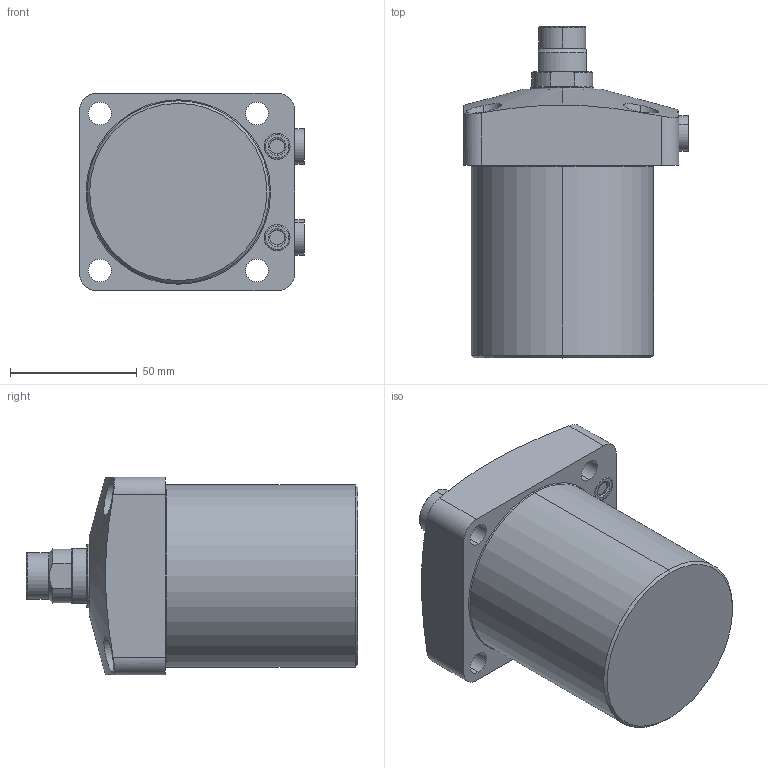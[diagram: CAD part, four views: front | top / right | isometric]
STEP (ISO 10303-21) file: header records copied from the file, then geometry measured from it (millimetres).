
FILE_DESCRIPTION(/* description */ (''),/* implementation_level */ '2;1');
FILE_NAME(/* name */ 'FSC25-M.stp',/* time_stamp */ '2025-03-10T14:18:04+08:00',/* author */ (''),/* organization */ (''),/* preprocessor_version */ 'ST-DEVELOPER v16.7',/* originating_system */ 'SIEMENS PLM Software NX 12.0',/* authorisation */ '');
FILE_SCHEMA (('AUTOMOTIVE_DESIGN { 1 0 10303 214 3 1 1 1 }'));
Length unit declared in the file: millimetre
Products named in the file (9): XLC-M16_o-ring; XLC-M16SP_pad; XLC-M16SP_pin; XLC-M16SP_contactbolt; FSC25-01; FSC25-02; FSC25-04; XLC-M16_XLC-M16SP; FSC25_stp
Assembly tree (9 placements, depth 3):
  FSC25_stp
    FSC25-04  x2
    FSC25-02
    FSC25-01
    XLC-M16_XLC-M16SP
      XLC-M16SP_contactbolt
      XLC-M16SP_pin
      XLC-M16SP_pad
      XLC-M16_o-ring
Bounding box: 88.8 x 131 x 78 mm (x, y, z)
Volume: 475965.1 mm3; surface area: 51502 mm2
Topology: 8 solids, 10 shells, 247 faces, 546 edges, 338 vertices
Faces by surface type: cylinder 96, plane 63, cone 44, torus 38, sphere 6
Entity records: 7030 total; most frequent: CARTESIAN_POINT 1601, DIRECTION 1204, ORIENTED_EDGE 1008, AXIS2_PLACEMENT_3D 519, EDGE_CURVE 504, VERTEX_POINT 312, CIRCLE 282, EDGE_LOOP 268
